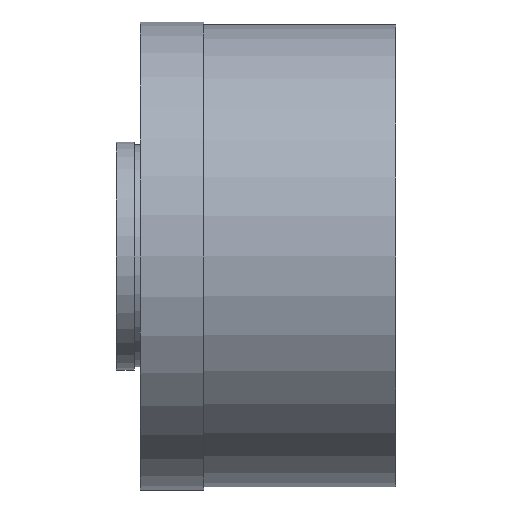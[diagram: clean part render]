
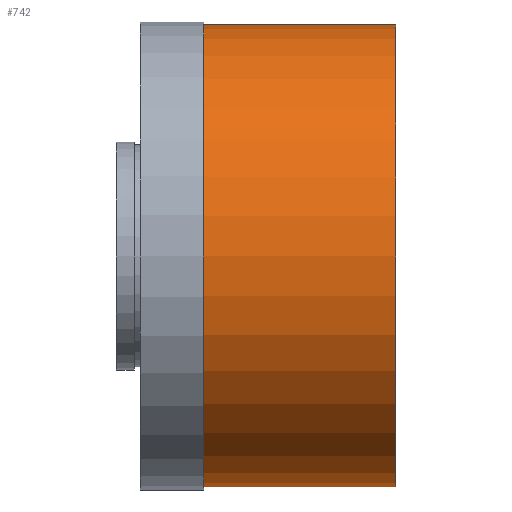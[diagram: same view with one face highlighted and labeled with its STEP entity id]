
A CAD part, left-side view. The second image highlights one B-rep face of the part: STEP entity #742.
In plain terms, the highlighted cylindrical face has radius 38.5 mm (diameter 77 mm), a partial arc.
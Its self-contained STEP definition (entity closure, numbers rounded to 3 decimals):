
#19 = EDGE_CURVE ( 'NONE', #601, #275, #802, .T. ) ;
#22 = AXIS2_PLACEMENT_3D ( 'NONE', #768, #845, #152 ) ;
#68 = CARTESIAN_POINT ( 'NONE',  ( 0., 32., 38.5 ) ) ;
#88 = ORIENTED_EDGE ( 'NONE', *, *, #19, .F. ) ;
#97 = DIRECTION ( 'NONE',  ( 0., -1., 0. ) ) ;
#141 = AXIS2_PLACEMENT_3D ( 'NONE', #788, #97, #513 ) ;
#151 = LINE ( 'NONE', #308, #164 ) ;
#152 = DIRECTION ( 'NONE',  ( 0., 0., -1. ) ) ;
#157 = EDGE_CURVE ( 'NONE', #313, #275, #467, .T. ) ;
#164 = VECTOR ( 'NONE', #186, 1000. ) ;
#186 = DIRECTION ( 'NONE',  ( 0., -1., 0. ) ) ;
#212 = CARTESIAN_POINT ( 'NONE',  ( 0., 0., 38.5 ) ) ;
#239 = EDGE_CURVE ( 'NONE', #509, #601, #151, .T. ) ;
#253 = AXIS2_PLACEMENT_3D ( 'NONE', #442, #724, #638 ) ;
#255 = ORIENTED_EDGE ( 'NONE', *, *, #239, .F. ) ;
#275 = VERTEX_POINT ( 'NONE', #394 ) ;
#308 = CARTESIAN_POINT ( 'NONE',  ( 0., 0., 38.5 ) ) ;
#313 = VERTEX_POINT ( 'NONE', #745 ) ;
#350 = VECTOR ( 'NONE', #809, 1000. ) ;
#394 = CARTESIAN_POINT ( 'NONE',  ( 0., 0., -38.5 ) ) ;
#442 = CARTESIAN_POINT ( 'NONE',  ( 0., 0., 0. ) ) ;
#467 = LINE ( 'NONE', #870, #350 ) ;
#509 = VERTEX_POINT ( 'NONE', #68 ) ;
#513 = DIRECTION ( 'NONE',  ( 0., 0., -1. ) ) ;
#575 = EDGE_CURVE ( 'NONE', #509, #313, #846, .T. ) ;
#593 = FACE_OUTER_BOUND ( 'NONE', #677, .T. ) ;
#601 = VERTEX_POINT ( 'NONE', #212 ) ;
#638 = DIRECTION ( 'NONE',  ( 0., 0., -1. ) ) ;
#677 = EDGE_LOOP ( 'NONE', ( #255, #864, #872, #88 ) ) ;
#724 = DIRECTION ( 'NONE',  ( 0., -1., 0. ) ) ;
#742 = ADVANCED_FACE ( 'NONE', ( #593 ), #746, .T. ) ;
#745 = CARTESIAN_POINT ( 'NONE',  ( 0., 32., -38.5 ) ) ;
#746 = CYLINDRICAL_SURFACE ( 'NONE', #253, 38.5 ) ;
#768 = CARTESIAN_POINT ( 'NONE',  ( 0., 32., 0. ) ) ;
#788 = CARTESIAN_POINT ( 'NONE',  ( 0., 0., 0. ) ) ;
#802 = CIRCLE ( 'NONE', #141, 38.5 ) ;
#809 = DIRECTION ( 'NONE',  ( 0., -1., 0. ) ) ;
#845 = DIRECTION ( 'NONE',  ( 0., -1., 0. ) ) ;
#846 = CIRCLE ( 'NONE', #22, 38.5 ) ;
#864 = ORIENTED_EDGE ( 'NONE', *, *, #575, .T. ) ;
#870 = CARTESIAN_POINT ( 'NONE',  ( 0., 0., -38.5 ) ) ;
#872 = ORIENTED_EDGE ( 'NONE', *, *, #157, .T. ) ;
